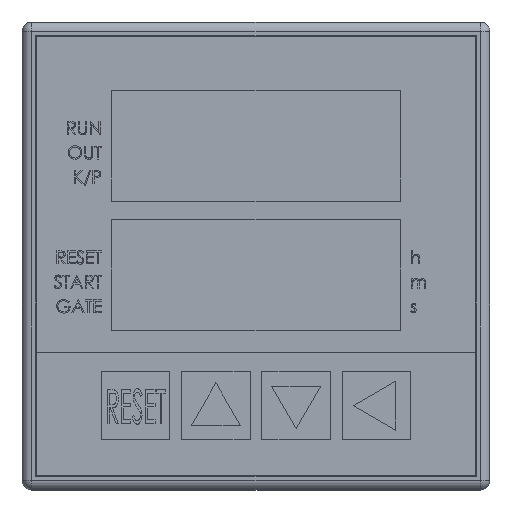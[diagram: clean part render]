
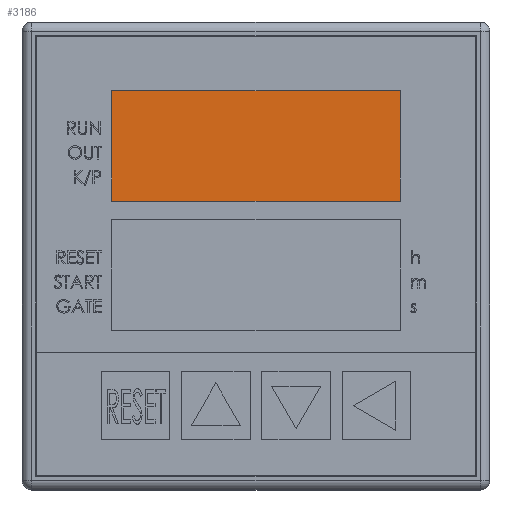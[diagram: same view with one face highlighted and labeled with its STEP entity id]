
A CAD part, top view. The second image highlights one B-rep face of the part: STEP entity #3186.
In plain terms, the highlighted planar face has unit normal (0, 0, 1).
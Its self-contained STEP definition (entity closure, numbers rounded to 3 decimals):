
#3186 = ADVANCED_FACE ( 'NONE', ( #36410 ), #23647, .T. ) ;
#6627 = ORIENTED_EDGE ( 'NONE', *, *, #8135, .T. ) ;
#6629 = ORIENTED_EDGE ( 'NONE', *, *, #8217, .T. ) ;
#6630 = ORIENTED_EDGE ( 'NONE', *, *, #8137, .T. ) ;
#6631 = ORIENTED_EDGE ( 'NONE', *, *, #8134, .T. ) ;
#8134 = EDGE_CURVE ( 'NONE', #8873, #8872, #25336, .T. ) ;
#8135 = EDGE_CURVE ( 'NONE', #8872, #8874, #25339, .T. ) ;
#8137 = EDGE_CURVE ( 'NONE', #8875, #8873, #25345, .T. ) ;
#8217 = EDGE_CURVE ( 'NONE', #8874, #8875, #25456, .T. ) ;
#8872 = VERTEX_POINT ( 'NONE', #26437 ) ;
#8873 = VERTEX_POINT ( 'NONE', #26438 ) ;
#8874 = VERTEX_POINT ( 'NONE', #26439 ) ;
#8875 = VERTEX_POINT ( 'NONE', #26440 ) ;
#23647 = PLANE ( 'NONE',  #36407 ) ;
#23648 = CARTESIAN_POINT ( 'NONE',  ( 0., 0., 5.3 ) ) ;
#23649 = DIRECTION ( 'NONE',  ( 0., 0., 1. ) ) ;
#23650 = DIRECTION ( 'NONE',  ( 1., 0., 0. ) ) ;
#25336 = LINE ( 'NONE', #25337, #35529 ) ;
#25337 = CARTESIAN_POINT ( 'NONE',  ( 14.75, 16.9, 5.3 ) ) ;
#25338 = DIRECTION ( 'NONE',  ( 0., 1., 0. ) ) ;
#25339 = LINE ( 'NONE', #25340, #35524 ) ;
#25340 = CARTESIAN_POINT ( 'NONE',  ( -14.75, 16.9, 5.3 ) ) ;
#25341 = DIRECTION ( 'NONE',  ( -1., 0., 0. ) ) ;
#25345 = LINE ( 'NONE', #25346, #35507 ) ;
#25346 = CARTESIAN_POINT ( 'NONE',  ( -14.75, 5.6, 5.3 ) ) ;
#25347 = DIRECTION ( 'NONE',  ( 1., 0., 0. ) ) ;
#25456 = LINE ( 'NONE', #25457, #35358 ) ;
#25457 = CARTESIAN_POINT ( 'NONE',  ( -14.75, 16.9, 5.3 ) ) ;
#25458 = DIRECTION ( 'NONE',  ( 0., -1., 0. ) ) ;
#26437 = CARTESIAN_POINT ( 'NONE',  ( 14.75, 16.9, 5.3 ) ) ;
#26438 = CARTESIAN_POINT ( 'NONE',  ( 14.75, 5.6, 5.3 ) ) ;
#26439 = CARTESIAN_POINT ( 'NONE',  ( -14.75, 16.9, 5.3 ) ) ;
#26440 = CARTESIAN_POINT ( 'NONE',  ( -14.75, 5.6, 5.3 ) ) ;
#34287 = EDGE_LOOP ( 'NONE', ( #6629, #6630, #6631, #6627 ) ) ;
#35358 = VECTOR ( 'NONE', #25458, 1000. ) ;
#35507 = VECTOR ( 'NONE', #25347, 1000. ) ;
#35524 = VECTOR ( 'NONE', #25341, 1000. ) ;
#35529 = VECTOR ( 'NONE', #25338, 1000. ) ;
#36407 = AXIS2_PLACEMENT_3D ( 'NONE', #23648, #23649, #23650 ) ;
#36410 = FACE_OUTER_BOUND ( 'NONE', #34287, .T. ) ;
